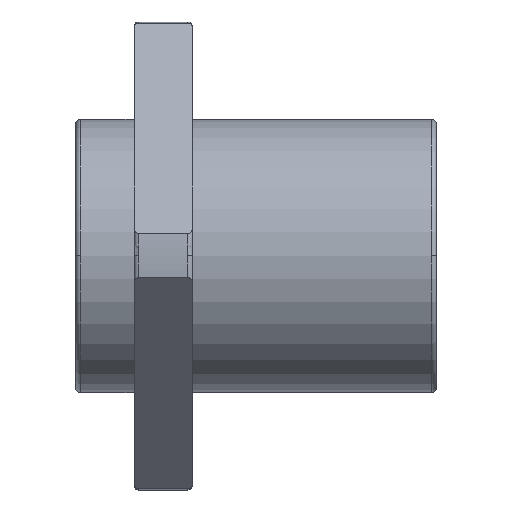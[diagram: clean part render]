
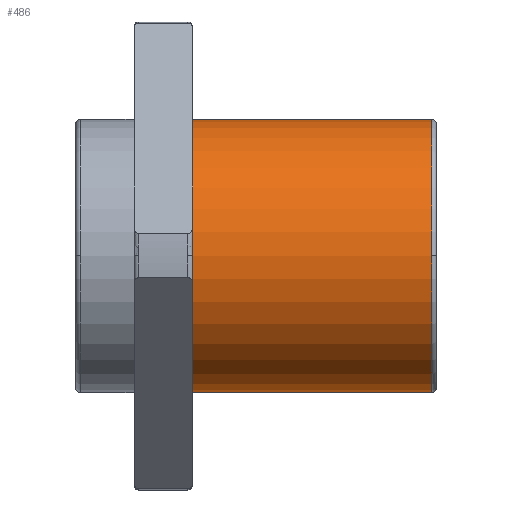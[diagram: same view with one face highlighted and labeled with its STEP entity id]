
A CAD part, top view. The second image highlights one B-rep face of the part: STEP entity #486.
In plain terms, the highlighted cylindrical face has radius 14 mm (diameter 28 mm), a partial arc.
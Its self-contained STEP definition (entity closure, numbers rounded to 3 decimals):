
#335 = TOROIDAL_SURFACE('',#336,13.52,0.48);
#336 = AXIS2_PLACEMENT_3D('',#337,#338,#339);
#337 = CARTESIAN_POINT('',(36.52,0.,0.));
#338 = DIRECTION('',(1.,0.,0.));
#339 = DIRECTION('',(0.,0.,-1.));
#347 = TOROIDAL_SURFACE('',#348,13.52,0.48);
#348 = AXIS2_PLACEMENT_3D('',#349,#350,#351);
#349 = CARTESIAN_POINT('',(36.52,0.,0.));
#350 = DIRECTION('',(1.,0.,0.));
#351 = DIRECTION('',(0.,0.,-1.));
#360 = VERTEX_POINT('',#361);
#361 = CARTESIAN_POINT('',(36.52,14.,0.));
#376 = CYLINDRICAL_SURFACE('',#377,14.);
#377 = AXIS2_PLACEMENT_3D('',#378,#379,#380);
#378 = CARTESIAN_POINT('',(24.26,0.,0.));
#379 = DIRECTION('',(1.,0.,0.));
#380 = DIRECTION('',(-0.,1.,0.));
#388 = EDGE_CURVE('',#360,#389,#391,.T.);
#389 = VERTEX_POINT('',#390);
#390 = CARTESIAN_POINT('',(36.52,0.,14.));
#391 = SURFACE_CURVE('',#392,(#397,#404),.PCURVE_S1.);
#392 = CIRCLE('',#393,14.);
#393 = AXIS2_PLACEMENT_3D('',#394,#395,#396);
#394 = CARTESIAN_POINT('',(36.52,0.,0.));
#395 = DIRECTION('',(1.,0.,0.));
#396 = DIRECTION('',(-0.,1.,0.));
#397 = PCURVE('',#335,#398);
#398 = DEFINITIONAL_REPRESENTATION('',(#399),#403);
#399 = LINE('',#400,#401);
#400 = CARTESIAN_POINT('',(1.571,0.));
#401 = VECTOR('',#402,1.);
#402 = DIRECTION('',(1.,0.));
#403 = ( GEOMETRIC_REPRESENTATION_CONTEXT(2) 
PARAMETRIC_REPRESENTATION_CONTEXT() REPRESENTATION_CONTEXT('2D SPACE',''
  ) );
#404 = PCURVE('',#405,#410);
#405 = CYLINDRICAL_SURFACE('',#406,14.);
#406 = AXIS2_PLACEMENT_3D('',#407,#408,#409);
#407 = CARTESIAN_POINT('',(24.26,0.,0.));
#408 = DIRECTION('',(1.,0.,0.));
#409 = DIRECTION('',(-0.,1.,0.));
#410 = DEFINITIONAL_REPRESENTATION('',(#411),#415);
#411 = LINE('',#412,#413);
#412 = CARTESIAN_POINT('',(0.,12.26));
#413 = VECTOR('',#414,1.);
#414 = DIRECTION('',(1.,0.));
#415 = ( GEOMETRIC_REPRESENTATION_CONTEXT(2) 
PARAMETRIC_REPRESENTATION_CONTEXT() REPRESENTATION_CONTEXT('2D SPACE',''
  ) );
#486 = ADVANCED_FACE('',(#487),#405,.T.);
#487 = FACE_BOUND('',#488,.T.);
#488 = EDGE_LOOP('',(#489,#512,#541,#564,#586));
#489 = ORIENTED_EDGE('',*,*,#490,.F.);
#490 = EDGE_CURVE('',#491,#360,#493,.T.);
#491 = VERTEX_POINT('',#492);
#492 = CARTESIAN_POINT('',(12.,14.,0.));
#493 = SURFACE_CURVE('',#494,(#498,#505),.PCURVE_S1.);
#494 = LINE('',#495,#496);
#495 = CARTESIAN_POINT('',(24.26,14.,0.));
#496 = VECTOR('',#497,1.);
#497 = DIRECTION('',(1.,0.,0.));
#498 = PCURVE('',#405,#499);
#499 = DEFINITIONAL_REPRESENTATION('',(#500),#504);
#500 = LINE('',#501,#502);
#501 = CARTESIAN_POINT('',(0.,0.));
#502 = VECTOR('',#503,1.);
#503 = DIRECTION('',(0.,1.));
#504 = ( GEOMETRIC_REPRESENTATION_CONTEXT(2) 
PARAMETRIC_REPRESENTATION_CONTEXT() REPRESENTATION_CONTEXT('2D SPACE',''
  ) );
#505 = PCURVE('',#376,#506);
#506 = DEFINITIONAL_REPRESENTATION('',(#507),#511);
#507 = LINE('',#508,#509);
#508 = CARTESIAN_POINT('',(6.283,0.));
#509 = VECTOR('',#510,1.);
#510 = DIRECTION('',(0.,1.));
#511 = ( GEOMETRIC_REPRESENTATION_CONTEXT(2) 
PARAMETRIC_REPRESENTATION_CONTEXT() REPRESENTATION_CONTEXT('2D SPACE',''
  ) );
#512 = ORIENTED_EDGE('',*,*,#513,.T.);
#513 = EDGE_CURVE('',#491,#514,#516,.T.);
#514 = VERTEX_POINT('',#515);
#515 = CARTESIAN_POINT('',(12.,-14.,0.));
#516 = SURFACE_CURVE('',#517,(#522,#529),.PCURVE_S1.);
#517 = CIRCLE('',#518,14.);
#518 = AXIS2_PLACEMENT_3D('',#519,#520,#521);
#519 = CARTESIAN_POINT('',(12.,0.,0.));
#520 = DIRECTION('',(1.,0.,0.));
#521 = DIRECTION('',(-0.,1.,0.));
#522 = PCURVE('',#405,#523);
#523 = DEFINITIONAL_REPRESENTATION('',(#524),#528);
#524 = LINE('',#525,#526);
#525 = CARTESIAN_POINT('',(0.,-12.26));
#526 = VECTOR('',#527,1.);
#527 = DIRECTION('',(1.,0.));
#528 = ( GEOMETRIC_REPRESENTATION_CONTEXT(2) 
PARAMETRIC_REPRESENTATION_CONTEXT() REPRESENTATION_CONTEXT('2D SPACE',''
  ) );
#529 = PCURVE('',#530,#535);
#530 = PLANE('',#531);
#531 = AXIS2_PLACEMENT_3D('',#532,#533,#534);
#532 = CARTESIAN_POINT('',(12.,18.76,0.));
#533 = DIRECTION('',(1.,0.,0.));
#534 = DIRECTION('',(-0.,1.,0.));
#535 = DEFINITIONAL_REPRESENTATION('',(#536),#540);
#536 = CIRCLE('',#537,14.);
#537 = AXIS2_PLACEMENT_2D('',#538,#539);
#538 = CARTESIAN_POINT('',(-18.76,0.));
#539 = DIRECTION('',(1.,0.));
#540 = ( GEOMETRIC_REPRESENTATION_CONTEXT(2) 
PARAMETRIC_REPRESENTATION_CONTEXT() REPRESENTATION_CONTEXT('2D SPACE',''
  ) );
#541 = ORIENTED_EDGE('',*,*,#542,.F.);
#542 = EDGE_CURVE('',#543,#514,#545,.T.);
#543 = VERTEX_POINT('',#544);
#544 = CARTESIAN_POINT('',(36.52,-14.,0.));
#545 = SURFACE_CURVE('',#546,(#550,#557),.PCURVE_S1.);
#546 = LINE('',#547,#548);
#547 = CARTESIAN_POINT('',(24.26,-14.,0.));
#548 = VECTOR('',#549,1.);
#549 = DIRECTION('',(-1.,-0.,-0.));
#550 = PCURVE('',#405,#551);
#551 = DEFINITIONAL_REPRESENTATION('',(#552),#556);
#552 = LINE('',#553,#554);
#553 = CARTESIAN_POINT('',(3.142,0.));
#554 = VECTOR('',#555,1.);
#555 = DIRECTION('',(0.,-1.));
#556 = ( GEOMETRIC_REPRESENTATION_CONTEXT(2) 
PARAMETRIC_REPRESENTATION_CONTEXT() REPRESENTATION_CONTEXT('2D SPACE',''
  ) );
#557 = PCURVE('',#376,#558);
#558 = DEFINITIONAL_REPRESENTATION('',(#559),#563);
#559 = LINE('',#560,#561);
#560 = CARTESIAN_POINT('',(3.142,0.));
#561 = VECTOR('',#562,1.);
#562 = DIRECTION('',(0.,-1.));
#563 = ( GEOMETRIC_REPRESENTATION_CONTEXT(2) 
PARAMETRIC_REPRESENTATION_CONTEXT() REPRESENTATION_CONTEXT('2D SPACE',''
  ) );
#564 = ORIENTED_EDGE('',*,*,#565,.F.);
#565 = EDGE_CURVE('',#389,#543,#566,.T.);
#566 = SURFACE_CURVE('',#567,(#572,#579),.PCURVE_S1.);
#567 = CIRCLE('',#568,14.);
#568 = AXIS2_PLACEMENT_3D('',#569,#570,#571);
#569 = CARTESIAN_POINT('',(36.52,0.,0.));
#570 = DIRECTION('',(1.,0.,0.));
#571 = DIRECTION('',(-0.,1.,0.));
#572 = PCURVE('',#405,#573);
#573 = DEFINITIONAL_REPRESENTATION('',(#574),#578);
#574 = LINE('',#575,#576);
#575 = CARTESIAN_POINT('',(0.,12.26));
#576 = VECTOR('',#577,1.);
#577 = DIRECTION('',(1.,0.));
#578 = ( GEOMETRIC_REPRESENTATION_CONTEXT(2) 
PARAMETRIC_REPRESENTATION_CONTEXT() REPRESENTATION_CONTEXT('2D SPACE',''
  ) );
#579 = PCURVE('',#347,#580);
#580 = DEFINITIONAL_REPRESENTATION('',(#581),#585);
#581 = LINE('',#582,#583);
#582 = CARTESIAN_POINT('',(1.571,0.));
#583 = VECTOR('',#584,1.);
#584 = DIRECTION('',(1.,0.));
#585 = ( GEOMETRIC_REPRESENTATION_CONTEXT(2) 
PARAMETRIC_REPRESENTATION_CONTEXT() REPRESENTATION_CONTEXT('2D SPACE',''
  ) );
#586 = ORIENTED_EDGE('',*,*,#388,.F.);
